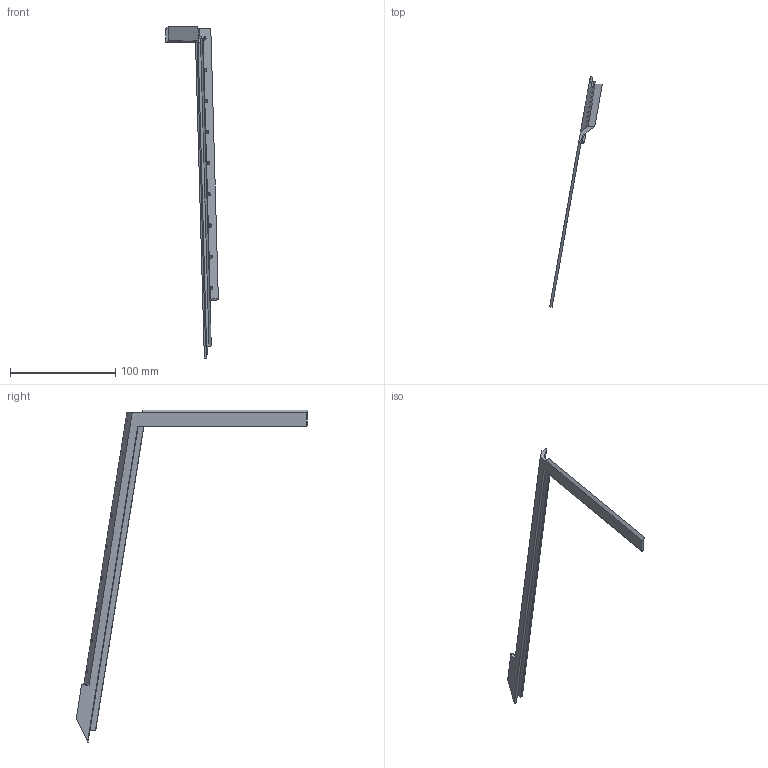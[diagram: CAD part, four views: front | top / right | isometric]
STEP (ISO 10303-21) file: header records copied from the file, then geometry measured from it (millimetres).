
FILE_DESCRIPTION(('STEP AP242 Edition 2','STEP AP242 Edition 2''CAx-IF Rec.Pracs.---Representation and Presentation of Product Manufacturing Information (PMI)---4.0---2014-10-13','STEP AP242 Edition 2''CAx-IF Rec.Pracs.---Representation and Presentation of Product Manufacturing Information (PMI)---4.0---2014-10-13''CAx-IF Rec.Pracs.---3D Tessellated Geometry---0.4---2014-09-14','STEP AP242 Edition 2''CAx-IF Rec.Pracs.---Representation and Presentation of Product Manufacturing Information (PMI)---4.0---2014-10-13''CAx-IF Rec.Pracs.---3D Tessellated Geometry---0.4---2014-09-14''2;1','STEP AP242 Edition 2''CAx-IF Rec.Pracs.---Representation and Presentation of Product Manufacturing Information (PMI)---4.0---2014-10-13''CAx-IF Rec.Pracs.---3D Tessellated Geometry---0.4---2014-09-14''2;1''CAx-IF Rec.Pracs.---User Defined Attributes---1.5---2016-08-15'),'2;1');
FILE_NAME('/vol/tmp/translate-5928582753522486027/Part Studio Body Front - Part Front Left Window Holder.step','2026-05-02T13:02:39',(''),(''),'ST-DEVELOPER v20','ONSHAPE BY PTC INC, 1.214',' ');
FILE_SCHEMA(('AP242_MANAGED_MODEL_BASED_3D_ENGINEERING_MIM_LF { 1 0 10303 442 3 1 4 }'));
Length unit declared in the file: metre
Products named in the file (1): Part Front Left Window Holder
Bounding box: 50.04 x 219.87 x 315.47 mm (x, y, z)
Volume: 31639.8 mm3; surface area: 22151.4 mm2
Topology: 1 solids, 1 shells, 46 faces, 126 edges, 82 vertices
Faces by surface type: plane 25, cylinder 19, bspline 2
Full cylindrical faces by diameter (mm): 3 x9
Entity records: 1575 total; most frequent: CARTESIAN_POINT 298, DIRECTION 247, ORIENTED_EDGE 234, EDGE_CURVE 117, AXIS2_PLACEMENT_3D 87, VERTEX_POINT 82, LINE 73, VECTOR 73
